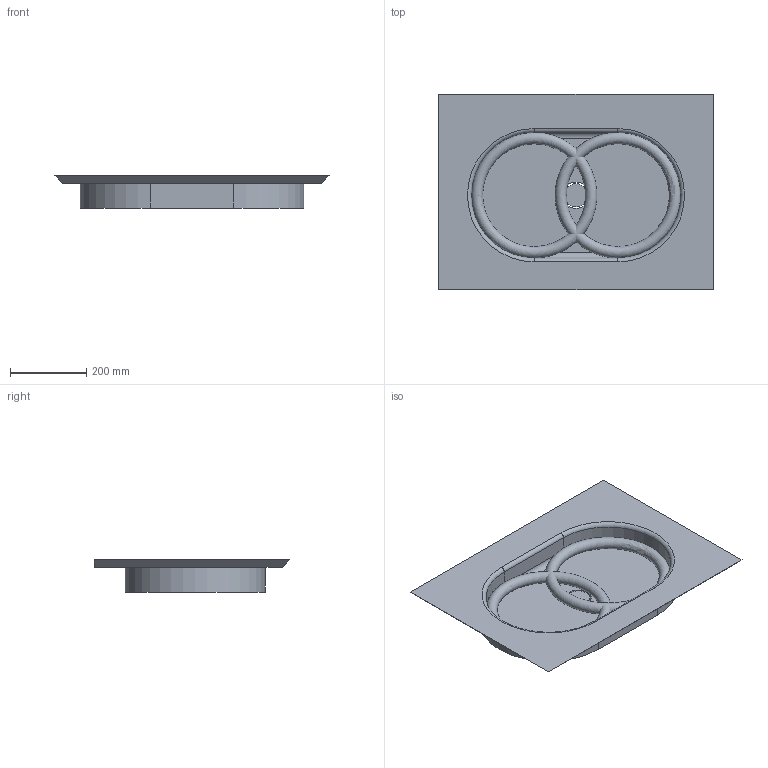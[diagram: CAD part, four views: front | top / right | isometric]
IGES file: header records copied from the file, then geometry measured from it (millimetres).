
Start section: Data from Parasolid IGES Translator 22.0.50, Copyright(c) 2006 Siemens P LM Software. All Rights Reserved.
Global section: file name: noorth-top-H 1,9 D 51,2 W 72_oval.igs; native system: By Siemens PLM Incorporated; preprocessor: XPlus GENERIC/IGES 22.0.50; author: Noname; organization: Noname; date: 20251104.075540; units: metre
Bounding box: 720 x 513 x 85 mm (x, y, z)
Volume: 10266233.6 mm3; surface area: 1085699.5 mm2
Topology: 2 solids, 2 shells, 28 faces, 62 edges, 38 vertices
Faces by surface type: plane 14, cylinder 10, torus 4
Full cylindrical faces by diameter (mm): 60.756 x1, 68.756 x1
